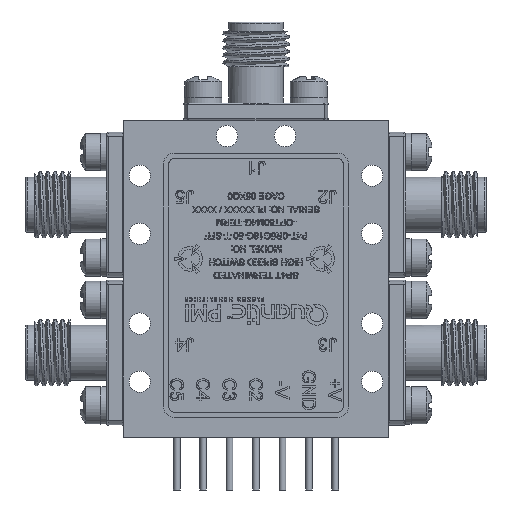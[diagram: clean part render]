
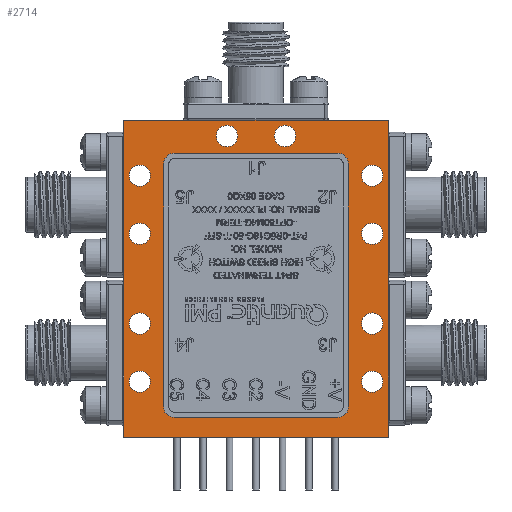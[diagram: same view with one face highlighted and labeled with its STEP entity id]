
A CAD part, front view. The second image highlights one B-rep face of the part: STEP entity #2714.
In plain terms, the highlighted planar face has unit normal (0, -1, 0).
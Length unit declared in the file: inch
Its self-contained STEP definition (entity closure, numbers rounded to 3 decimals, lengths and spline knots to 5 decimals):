
#454 = VERTEX_POINT ( 'NONE', #44280 ) ;
#990 = CARTESIAN_POINT ( 'NONE',  ( 0.44, -0.5, -0.17 ) ) ;
#1409 = EDGE_LOOP ( 'NONE', ( #48068, #41330, #52211, #36256 ) ) ;
#2160 = EDGE_CURVE ( 'NONE', #44058, #44058, #45453, .T. ) ;
#2233 = EDGE_LOOP ( 'NONE', ( #50458 ) ) ;
#2257 = DIRECTION ( 'NONE',  ( -1., 0., 0. ) ) ;
#2444 = AXIS2_PLACEMENT_3D ( 'NONE', #990, #5892, #28050 ) ;
#2555 = DIRECTION ( 'NONE',  ( 0., 0., 1. ) ) ;
#2714 = ADVANCED_FACE ( 'NONE', ( #44405, #8200, #13061, #38980, #34385, #48411, #8754, #52942, #17946, #30584, #56141 ), #21147, .F. ) ;
#3900 = EDGE_CURVE ( 'NONE', #22482, #22482, #52326, .T. ) ;
#4363 = VERTEX_POINT ( 'NONE', #5203 ) ;
#4467 = DIRECTION ( 'NONE',  ( 0., 0., 1. ) ) ;
#4907 = LINE ( 'NONE', #22466, #25740 ) ;
#5203 = CARTESIAN_POINT ( 'NONE',  ( -0.44, -0.5, 0.4305 ) ) ;
#5319 = EDGE_CURVE ( 'NONE', #17891, #17891, #50461, .T. ) ;
#5390 = EDGE_CURVE ( 'NONE', #25978, #454, #4907, .T. ) ;
#5451 = AXIS2_PLACEMENT_3D ( 'NONE', #6847, #33028, #24381 ) ;
#5500 = DIRECTION ( 'NONE',  ( 0., 0., -1. ) ) ;
#5807 = VERTEX_POINT ( 'NONE', #32257 ) ;
#5892 = DIRECTION ( 'NONE',  ( 0., 1., 0. ) ) ;
#6089 = VERTEX_POINT ( 'NONE', #6669 ) ;
#6669 = CARTESIAN_POINT ( 'NONE',  ( 0.44, -0.5, -0.3495 ) ) ;
#6847 = CARTESIAN_POINT ( 'NONE',  ( 0.44, -0.5, 0.39 ) ) ;
#6946 = CARTESIAN_POINT ( 'NONE',  ( -0.44, -0.5, -0.1295 ) ) ;
#8150 = CIRCLE ( 'NONE', #22833, 0.0405 ) ;
#8200 = FACE_BOUND ( 'NONE', #42060, .T. ) ;
#8754 = FACE_BOUND ( 'NONE', #20917, .T. ) ;
#8973 = VERTEX_POINT ( 'NONE', #52882 ) ;
#9142 = CARTESIAN_POINT ( 'NONE',  ( 0.5, -0.5, 0.6 ) ) ;
#9930 = EDGE_CURVE ( 'NONE', #4363, #4363, #11336, .T. ) ;
#10431 = AXIS2_PLACEMENT_3D ( 'NONE', #39872, #34990, #44735 ) ;
#10935 = AXIS2_PLACEMENT_3D ( 'NONE', #21798, #18895, #37058 ) ;
#10968 = CARTESIAN_POINT ( 'NONE',  ( -0.44, -0.5, 0.2105 ) ) ;
#11273 = CARTESIAN_POINT ( 'NONE',  ( -0.44, -0.5, -0.17 ) ) ;
#11300 = CARTESIAN_POINT ( 'NONE',  ( 0.11, -0.5, 0.54 ) ) ;
#11336 = CIRCLE ( 'NONE', #10431, 0.0405 ) ;
#11386 = EDGE_LOOP ( 'NONE', ( #52516 ) ) ;
#11435 = CIRCLE ( 'NONE', #41753, 0.0405 ) ;
#11623 = EDGE_CURVE ( 'NONE', #8973, #8973, #16256, .T. ) ;
#12139 = VERTEX_POINT ( 'NONE', #43445 ) ;
#13061 = FACE_BOUND ( 'NONE', #33857, .T. ) ;
#13642 = CARTESIAN_POINT ( 'NONE',  ( 0., -0.5, 0. ) ) ;
#13859 = CARTESIAN_POINT ( 'NONE',  ( 0.44, -0.5, 0.17 ) ) ;
#13868 = CARTESIAN_POINT ( 'NONE',  ( -0.5, -0.5, -0.6 ) ) ;
#14087 = CARTESIAN_POINT ( 'NONE',  ( -0.5, -0.5, 0.6 ) ) ;
#14155 = ORIENTED_EDGE ( 'NONE', *, *, #23090, .T. ) ;
#14725 = DIRECTION ( 'NONE',  ( 0., 1., 0. ) ) ;
#15054 = EDGE_CURVE ( 'NONE', #6089, #6089, #56723, .T. ) ;
#15817 = CARTESIAN_POINT ( 'NONE',  ( 0.44, -0.5, -0.39 ) ) ;
#16256 = CIRCLE ( 'NONE', #2444, 0.0405 ) ;
#17651 = EDGE_LOOP ( 'NONE', ( #39960 ) ) ;
#17891 = VERTEX_POINT ( 'NONE', #43768 ) ;
#17946 = FACE_BOUND ( 'NONE', #11386, .T. ) ;
#18755 = ORIENTED_EDGE ( 'NONE', *, *, #2160, .T. ) ;
#18895 = DIRECTION ( 'NONE',  ( 0., 1., 0. ) ) ;
#19321 = VERTEX_POINT ( 'NONE', #6946 ) ;
#19922 = EDGE_LOOP ( 'NONE', ( #52036 ) ) ;
#20519 = EDGE_CURVE ( 'NONE', #5807, #5807, #11435, .T. ) ;
#20917 = EDGE_LOOP ( 'NONE', ( #31463 ) ) ;
#21147 = PLANE ( 'NONE',  #34631 ) ;
#21741 = EDGE_CURVE ( 'NONE', #12139, #25978, #53395, .T. ) ;
#21798 = CARTESIAN_POINT ( 'NONE',  ( -0.44, -0.5, 0.17 ) ) ;
#22466 = CARTESIAN_POINT ( 'NONE',  ( 0.5, -0.5, -0.6 ) ) ;
#22482 = VERTEX_POINT ( 'NONE', #22762 ) ;
#22762 = CARTESIAN_POINT ( 'NONE',  ( -0.11, -0.5, 0.5805 ) ) ;
#22833 = AXIS2_PLACEMENT_3D ( 'NONE', #11273, #27707, #32848 ) ;
#23090 = EDGE_CURVE ( 'NONE', #19321, #19321, #8150, .T. ) ;
#23147 = DIRECTION ( 'NONE',  ( 0., 0., 1. ) ) ;
#23503 = EDGE_CURVE ( 'NONE', #50298, #50298, #35738, .T. ) ;
#24381 = DIRECTION ( 'NONE',  ( 0., 0., 1. ) ) ;
#25165 = CARTESIAN_POINT ( 'NONE',  ( -0.11, -0.5, 0.54 ) ) ;
#25442 = DIRECTION ( 'NONE',  ( 0., 0., 1. ) ) ;
#25740 = VECTOR ( 'NONE', #5500, 39.37008 ) ;
#25978 = VERTEX_POINT ( 'NONE', #9142 ) ;
#26869 = CARTESIAN_POINT ( 'NONE',  ( -0.5, -0.5, -0.6 ) ) ;
#27707 = DIRECTION ( 'NONE',  ( 0., 1., 0. ) ) ;
#27749 = EDGE_CURVE ( 'NONE', #454, #35747, #41676, .T. ) ;
#28050 = DIRECTION ( 'NONE',  ( 0., 0., 1. ) ) ;
#29663 = EDGE_LOOP ( 'NONE', ( #52607 ) ) ;
#30584 = FACE_BOUND ( 'NONE', #17651, .T. ) ;
#30618 = CARTESIAN_POINT ( 'NONE',  ( -0.44, -0.5, -0.39 ) ) ;
#30738 = CARTESIAN_POINT ( 'NONE',  ( 0.44, -0.5, 0.4305 ) ) ;
#31323 = VERTEX_POINT ( 'NONE', #30738 ) ;
#31463 = ORIENTED_EDGE ( 'NONE', *, *, #40500, .T. ) ;
#31603 = DIRECTION ( 'NONE',  ( 1., 0., 0. ) ) ;
#32015 = AXIS2_PLACEMENT_3D ( 'NONE', #15817, #36553, #2555 ) ;
#32111 = CIRCLE ( 'NONE', #5451, 0.0405 ) ;
#32257 = CARTESIAN_POINT ( 'NONE',  ( -0.44, -0.5, -0.3495 ) ) ;
#32591 = DIRECTION ( 'NONE',  ( 0., 0., 1. ) ) ;
#32848 = DIRECTION ( 'NONE',  ( 0., 0., 1. ) ) ;
#33028 = DIRECTION ( 'NONE',  ( 0., 1., 0. ) ) ;
#33857 = EDGE_LOOP ( 'NONE', ( #48299 ) ) ;
#34385 = FACE_BOUND ( 'NONE', #29663, .T. ) ;
#34631 = AXIS2_PLACEMENT_3D ( 'NONE', #13642, #44121, #38716 ) ;
#34990 = DIRECTION ( 'NONE',  ( 0., 1., 0. ) ) ;
#35738 = CIRCLE ( 'NONE', #10935, 0.0405 ) ;
#35747 = VERTEX_POINT ( 'NONE', #13868 ) ;
#36256 = ORIENTED_EDGE ( 'NONE', *, *, #21741, .F. ) ;
#36292 = EDGE_CURVE ( 'NONE', #35747, #12139, #49245, .T. ) ;
#36553 = DIRECTION ( 'NONE',  ( 0., 1., 0. ) ) ;
#37058 = DIRECTION ( 'NONE',  ( 0., 0., 1. ) ) ;
#38716 = DIRECTION ( 'NONE',  ( 0., 0., 1. ) ) ;
#38980 = FACE_BOUND ( 'NONE', #19922, .T. ) ;
#39872 = CARTESIAN_POINT ( 'NONE',  ( -0.44, -0.5, 0.39 ) ) ;
#39960 = ORIENTED_EDGE ( 'NONE', *, *, #15054, .T. ) ;
#40500 = EDGE_CURVE ( 'NONE', #31323, #31323, #32111, .T. ) ;
#40836 = CARTESIAN_POINT ( 'NONE',  ( -0.5, -0.5, -0.6 ) ) ;
#41180 = DIRECTION ( 'NONE',  ( 0., 0., 1. ) ) ;
#41276 = EDGE_LOOP ( 'NONE', ( #18755 ) ) ;
#41330 = ORIENTED_EDGE ( 'NONE', *, *, #27749, .F. ) ;
#41676 = LINE ( 'NONE', #40836, #49355 ) ;
#41753 = AXIS2_PLACEMENT_3D ( 'NONE', #30618, #48162, #4467 ) ;
#42060 = EDGE_LOOP ( 'NONE', ( #14155 ) ) ;
#42693 = DIRECTION ( 'NONE',  ( 0., 1., 0. ) ) ;
#43445 = CARTESIAN_POINT ( 'NONE',  ( -0.5, -0.5, 0.6 ) ) ;
#43768 = CARTESIAN_POINT ( 'NONE',  ( 0.44, -0.5, 0.2105 ) ) ;
#44058 = VERTEX_POINT ( 'NONE', #53469 ) ;
#44121 = DIRECTION ( 'NONE',  ( 0., 1., 0. ) ) ;
#44200 = EDGE_LOOP ( 'NONE', ( #50311 ) ) ;
#44280 = CARTESIAN_POINT ( 'NONE',  ( 0.5, -0.5, -0.6 ) ) ;
#44405 = FACE_BOUND ( 'NONE', #44200, .T. ) ;
#44735 = DIRECTION ( 'NONE',  ( 0., 0., 1. ) ) ;
#45453 = CIRCLE ( 'NONE', #50876, 0.0405 ) ;
#46904 = AXIS2_PLACEMENT_3D ( 'NONE', #25165, #42693, #25442 ) ;
#48068 = ORIENTED_EDGE ( 'NONE', *, *, #36292, .F. ) ;
#48162 = DIRECTION ( 'NONE',  ( 0., 1., 0. ) ) ;
#48299 = ORIENTED_EDGE ( 'NONE', *, *, #23503, .T. ) ;
#48411 = FACE_BOUND ( 'NONE', #41276, .T. ) ;
#49245 = LINE ( 'NONE', #26869, #53657 ) ;
#49355 = VECTOR ( 'NONE', #2257, 39.37008 ) ;
#49586 = AXIS2_PLACEMENT_3D ( 'NONE', #13859, #14725, #41180 ) ;
#50298 = VERTEX_POINT ( 'NONE', #10968 ) ;
#50311 = ORIENTED_EDGE ( 'NONE', *, *, #20519, .T. ) ;
#50458 = ORIENTED_EDGE ( 'NONE', *, *, #5319, .T. ) ;
#50461 = CIRCLE ( 'NONE', #49586, 0.0405 ) ;
#50876 = AXIS2_PLACEMENT_3D ( 'NONE', #11300, #54384, #32591 ) ;
#51900 = VECTOR ( 'NONE', #31603, 39.37008 ) ;
#52036 = ORIENTED_EDGE ( 'NONE', *, *, #9930, .T. ) ;
#52211 = ORIENTED_EDGE ( 'NONE', *, *, #5390, .F. ) ;
#52326 = CIRCLE ( 'NONE', #46904, 0.0405 ) ;
#52516 = ORIENTED_EDGE ( 'NONE', *, *, #11623, .T. ) ;
#52607 = ORIENTED_EDGE ( 'NONE', *, *, #3900, .T. ) ;
#52882 = CARTESIAN_POINT ( 'NONE',  ( 0.44, -0.5, -0.1295 ) ) ;
#52942 = FACE_BOUND ( 'NONE', #2233, .T. ) ;
#53395 = LINE ( 'NONE', #14087, #51900 ) ;
#53469 = CARTESIAN_POINT ( 'NONE',  ( 0.11, -0.5, 0.5805 ) ) ;
#53657 = VECTOR ( 'NONE', #23147, 39.37008 ) ;
#54384 = DIRECTION ( 'NONE',  ( 0., 1., 0. ) ) ;
#56141 = FACE_OUTER_BOUND ( 'NONE', #1409, .T. ) ;
#56723 = CIRCLE ( 'NONE', #32015, 0.0405 ) ;
